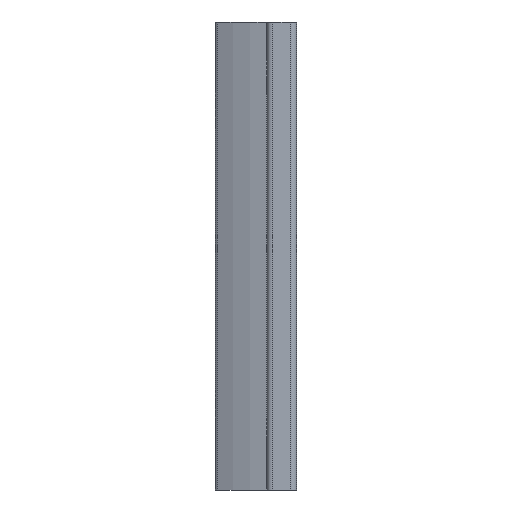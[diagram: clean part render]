
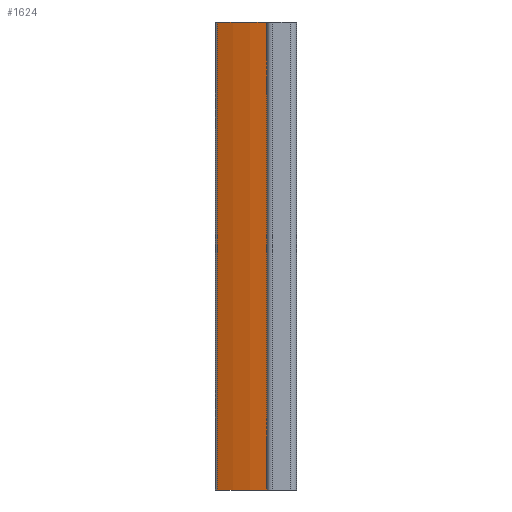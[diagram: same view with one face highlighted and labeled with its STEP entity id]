
A CAD part, left-side view. The second image highlights one B-rep face of the part: STEP entity #1624.
In plain terms, the highlighted cylindrical face has radius 30 mm (diameter 60 mm), a partial arc.
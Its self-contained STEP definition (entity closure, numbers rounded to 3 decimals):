
#59 = CARTESIAN_POINT ( 'NONE',  ( -29.451, 13.215, 0. ) ) ;
#60 = AXIS2_PLACEMENT_3D ( 'NONE', #1959, #1738, #632 ) ;
#183 = DIRECTION ( 'NONE',  ( 0., 0., -1. ) ) ;
#272 = ORIENTED_EDGE ( 'NONE', *, *, #1163, .F. ) ;
#286 = LINE ( 'NONE', #963, #1259 ) ;
#568 = CARTESIAN_POINT ( 'NONE',  ( -32., 5., 78. ) ) ;
#578 = EDGE_LOOP ( 'NONE', ( #1485, #826, #272, #2477 ) ) ;
#587 = VECTOR ( 'NONE', #2302, 1000. ) ;
#632 = DIRECTION ( 'NONE',  ( -1., 0., 0. ) ) ;
#650 = LINE ( 'NONE', #568, #587 ) ;
#774 = CARTESIAN_POINT ( 'NONE',  ( -2.369, 0.31, 0. ) ) ;
#798 = CARTESIAN_POINT ( 'NONE',  ( -2.369, 0.31, 78. ) ) ;
#826 = ORIENTED_EDGE ( 'NONE', *, *, #2367, .F. ) ;
#963 = CARTESIAN_POINT ( 'NONE',  ( -29.451, 13.215, 78. ) ) ;
#998 = DIRECTION ( 'NONE',  ( 1., 0., 0. ) ) ;
#1025 = CARTESIAN_POINT ( 'NONE',  ( -29.451, 13.215, 78. ) ) ;
#1156 = DIRECTION ( 'NONE',  ( 1., 0., 0. ) ) ;
#1163 = EDGE_CURVE ( 'NONE', #1627, #1613, #2492, .T. ) ;
#1189 = AXIS2_PLACEMENT_3D ( 'NONE', #774, #2309, #1156 ) ;
#1213 = EDGE_CURVE ( 'NONE', #2324, #1971, #2437, .T. ) ;
#1259 = VECTOR ( 'NONE', #183, 1000. ) ;
#1485 = ORIENTED_EDGE ( 'NONE', *, *, #1213, .T. ) ;
#1522 = EDGE_CURVE ( 'NONE', #1627, #2324, #286, .T. ) ;
#1613 = VERTEX_POINT ( 'NONE', #2333 ) ;
#1624 = ADVANCED_FACE ( 'NONE', ( #1647 ), #2103, .T. ) ;
#1627 = VERTEX_POINT ( 'NONE', #1025 ) ;
#1647 = FACE_OUTER_BOUND ( 'NONE', #578, .T. ) ;
#1738 = DIRECTION ( 'NONE',  ( 0., 0., -1. ) ) ;
#1959 = CARTESIAN_POINT ( 'NONE',  ( -2.369, 0.31, 78. ) ) ;
#1971 = VERTEX_POINT ( 'NONE', #2434 ) ;
#2103 = CYLINDRICAL_SURFACE ( 'NONE', #60, 30. ) ;
#2302 = DIRECTION ( 'NONE',  ( 0., 0., -1. ) ) ;
#2309 = DIRECTION ( 'NONE',  ( 0., 0., 1. ) ) ;
#2324 = VERTEX_POINT ( 'NONE', #59 ) ;
#2333 = CARTESIAN_POINT ( 'NONE',  ( -32., 5., 78. ) ) ;
#2339 = DIRECTION ( 'NONE',  ( 0., 0., 1. ) ) ;
#2367 = EDGE_CURVE ( 'NONE', #1613, #1971, #650, .T. ) ;
#2388 = AXIS2_PLACEMENT_3D ( 'NONE', #798, #2339, #998 ) ;
#2434 = CARTESIAN_POINT ( 'NONE',  ( -32., 5., 0. ) ) ;
#2437 = CIRCLE ( 'NONE', #1189, 30. ) ;
#2477 = ORIENTED_EDGE ( 'NONE', *, *, #1522, .T. ) ;
#2492 = CIRCLE ( 'NONE', #2388, 30. ) ;
